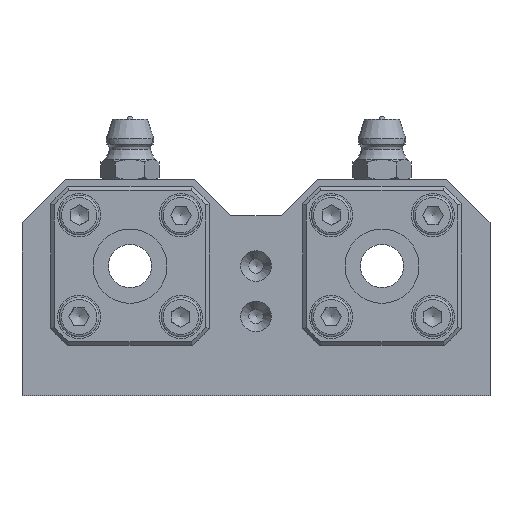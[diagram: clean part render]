
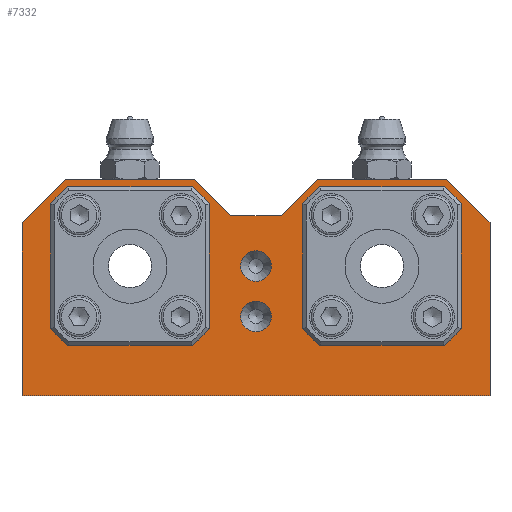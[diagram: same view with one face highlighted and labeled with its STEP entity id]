
A CAD part, left-side view. The second image highlights one B-rep face of the part: STEP entity #7332.
In plain terms, the highlighted planar face has unit normal (-1, 0, 0).
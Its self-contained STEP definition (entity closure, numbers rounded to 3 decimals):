
#6803=CARTESIAN_POINT('',(0.0,-32.5,0.0));
#6804=VERTEX_POINT('',#6803);
#6811=CARTESIAN_POINT('',(0.0,32.5,0.0));
#6812=VERTEX_POINT('',#6811);
#6813=CARTESIAN_POINT('',(0.0,32.5,0.0));
#6814=DIRECTION('',(0.0,-1.0,0.0));
#6815=VECTOR('',#6814,65.0);
#6816=LINE('',#6813,#6815);
#6817=EDGE_CURVE('',#6812,#6804,#6816,.T.);
#6872=CARTESIAN_POINT('',(0.0,-32.5,24.));
#6873=VERTEX_POINT('',#6872);
#6880=CARTESIAN_POINT('',(0.0,-32.5,0.0));
#6881=DIRECTION('',(0.0,0.0,1.0));
#6882=VECTOR('',#6881,24.);
#6883=LINE('',#6880,#6882);
#6884=EDGE_CURVE('',#6804,#6873,#6883,.T.);
#7113=CARTESIAN_POINT('',(0.0,8.5,30.0));
#7114=VERTEX_POINT('',#7113);
#7121=CARTESIAN_POINT('',(0.0,3.5,25.0));
#7122=VERTEX_POINT('',#7121);
#7123=CARTESIAN_POINT('',(0.0,8.5,30.0));
#7124=DIRECTION('',(0.0,-0.707,-0.707));
#7125=VECTOR('',#7124,7.071);
#7126=LINE('',#7123,#7125);
#7127=EDGE_CURVE('',#7114,#7122,#7126,.T.);
#7138=CARTESIAN_POINT('',(0.0,-32.5,0.0));
#7139=DIRECTION('',(-1.0,0.0,0.0));
#7140=DIRECTION('',(0.0,0.0,1.0));
#7141=AXIS2_PLACEMENT_3D('',#7138,#7139,#7140);
#7142=PLANE('',#7141);
#7143=ORIENTED_EDGE('',*,*,#7127,.F.);
#7144=CARTESIAN_POINT('',(0.0,26.5,30.0));
#7145=VERTEX_POINT('',#7144);
#7146=CARTESIAN_POINT('',(0.0,8.5,30.0));
#7147=DIRECTION('',(0.0,1.0,0.0));
#7148=VECTOR('',#7147,18.);
#7149=LINE('',#7146,#7148);
#7150=EDGE_CURVE('',#7114,#7145,#7149,.T.);
#7151=ORIENTED_EDGE('',*,*,#7150,.T.);
#7152=CARTESIAN_POINT('',(0.0,32.5,24.));
#7153=VERTEX_POINT('',#7152);
#7154=CARTESIAN_POINT('',(0.0,32.5,24.));
#7155=DIRECTION('',(0.0,-0.707,0.707));
#7156=VECTOR('',#7155,8.485);
#7157=LINE('',#7154,#7156);
#7158=EDGE_CURVE('',#7153,#7145,#7157,.T.);
#7159=ORIENTED_EDGE('',*,*,#7158,.F.);
#7160=CARTESIAN_POINT('',(0.0,32.5,0.0));
#7161=DIRECTION('',(0.0,0.0,1.0));
#7162=VECTOR('',#7161,24.);
#7163=LINE('',#7160,#7162);
#7164=EDGE_CURVE('',#6812,#7153,#7163,.T.);
#7165=ORIENTED_EDGE('',*,*,#7164,.F.);
#7166=ORIENTED_EDGE('',*,*,#6817,.T.);
#7167=ORIENTED_EDGE('',*,*,#6884,.T.);
#7168=CARTESIAN_POINT('',(0.0,-26.5,30.0));
#7169=VERTEX_POINT('',#7168);
#7170=CARTESIAN_POINT('',(0.0,-26.5,30.0));
#7171=DIRECTION('',(0.0,-0.707,-0.707));
#7172=VECTOR('',#7171,8.485);
#7173=LINE('',#7170,#7172);
#7174=EDGE_CURVE('',#7169,#6873,#7173,.T.);
#7175=ORIENTED_EDGE('',*,*,#7174,.F.);
#7176=CARTESIAN_POINT('',(0.0,-8.5,30.0));
#7177=VERTEX_POINT('',#7176);
#7178=CARTESIAN_POINT('',(0.0,-26.5,30.0));
#7179=DIRECTION('',(0.0,1.0,0.0));
#7180=VECTOR('',#7179,18.);
#7181=LINE('',#7178,#7180);
#7182=EDGE_CURVE('',#7169,#7177,#7181,.T.);
#7183=ORIENTED_EDGE('',*,*,#7182,.T.);
#7184=CARTESIAN_POINT('',(0.0,-3.5,25.0));
#7185=VERTEX_POINT('',#7184);
#7186=CARTESIAN_POINT('',(0.0,-3.5,25.0));
#7187=DIRECTION('',(0.0,-0.707,0.707));
#7188=VECTOR('',#7187,7.071);
#7189=LINE('',#7186,#7188);
#7190=EDGE_CURVE('',#7185,#7177,#7189,.T.);
#7191=ORIENTED_EDGE('',*,*,#7190,.F.);
#7192=CARTESIAN_POINT('',(0.0,-3.5,25.0));
#7193=DIRECTION('',(0.0,1.0,0.0));
#7194=VECTOR('',#7193,7.);
#7195=LINE('',#7192,#7194);
#7196=EDGE_CURVE('',#7185,#7122,#7195,.T.);
#7197=ORIENTED_EDGE('',*,*,#7196,.T.);
#7198=EDGE_LOOP('',(#7143,#7151,#7159,#7165,#7166,#7167,#7175,#7183,#7191,#7197));
#7199=FACE_OUTER_BOUND('',#7198,.T.);
#7200=CARTESIAN_POINT('',(0.0,10.429,23.571));
#7201=VERTEX_POINT('',#7200);
#7202=CARTESIAN_POINT('',(0.0,10.429,25.071));
#7203=DIRECTION('',(1.0,0.0,0.0));
#7204=DIRECTION('',(0.0,0.0,-1.0));
#7205=AXIS2_PLACEMENT_3D('',#7202,#7203,#7204);
#7206=CIRCLE('',#7205,1.5);
#7207=EDGE_CURVE('',#7201,#7201,#7206,.T.);
#7208=ORIENTED_EDGE('',*,*,#7207,.T.);
#7209=EDGE_LOOP('',(#7208));
#7210=FACE_BOUND('',#7209,.T.);
#7211=CARTESIAN_POINT('',(0.0,11.929,10.929));
#7212=VERTEX_POINT('',#7211);
#7213=CARTESIAN_POINT('',(0.0,10.429,10.929));
#7214=DIRECTION('',(1.0,0.0,0.0));
#7215=DIRECTION('',(0.0,1.0,0.0));
#7216=AXIS2_PLACEMENT_3D('',#7213,#7214,#7215);
#7217=CIRCLE('',#7216,1.5);
#7218=EDGE_CURVE('',#7212,#7212,#7217,.T.);
#7219=ORIENTED_EDGE('',*,*,#7218,.T.);
#7220=EDGE_LOOP('',(#7219));
#7221=FACE_BOUND('',#7220,.T.);
#7222=CARTESIAN_POINT('',(0.0,24.571,12.429));
#7223=VERTEX_POINT('',#7222);
#7224=CARTESIAN_POINT('',(0.0,24.571,10.929));
#7225=DIRECTION('',(1.0,0.0,0.0));
#7226=DIRECTION('',(0.0,0.0,1.0));
#7227=AXIS2_PLACEMENT_3D('',#7224,#7225,#7226);
#7228=CIRCLE('',#7227,1.5);
#7229=EDGE_CURVE('',#7223,#7223,#7228,.T.);
#7230=ORIENTED_EDGE('',*,*,#7229,.T.);
#7231=EDGE_LOOP('',(#7230));
#7232=FACE_BOUND('',#7231,.T.);
#7233=CARTESIAN_POINT('',(0.0,11.5,18.0));
#7234=VERTEX_POINT('',#7233);
#7235=CARTESIAN_POINT('',(0.0,17.5,18.0));
#7236=DIRECTION('',(1.0,0.0,0.0));
#7237=DIRECTION('',(0.0,1.0,0.0));
#7238=AXIS2_PLACEMENT_3D('',#7235,#7236,#7237);
#7239=CIRCLE('',#7238,6.);
#7240=EDGE_CURVE('',#7234,#7234,#7239,.T.);
#7241=ORIENTED_EDGE('',*,*,#7240,.T.);
#7242=EDGE_LOOP('',(#7241));
#7243=FACE_BOUND('',#7242,.T.);
#7244=CARTESIAN_POINT('',(0.0,23.071,25.071));
#7245=VERTEX_POINT('',#7244);
#7246=CARTESIAN_POINT('',(0.0,24.571,25.071));
#7247=DIRECTION('',(1.0,0.0,0.0));
#7248=DIRECTION('',(0.0,-1.0,0.0));
#7249=AXIS2_PLACEMENT_3D('',#7246,#7247,#7248);
#7250=CIRCLE('',#7249,1.5);
#7251=EDGE_CURVE('',#7245,#7245,#7250,.T.);
#7252=ORIENTED_EDGE('',*,*,#7251,.T.);
#7253=EDGE_LOOP('',(#7252));
#7254=FACE_BOUND('',#7253,.T.);
#7255=CARTESIAN_POINT('',(0.0,2.125,18.0));
#7256=VERTEX_POINT('',#7255);
#7257=CARTESIAN_POINT('',(0.0,0.0,18.0));
#7258=DIRECTION('',(1.0,0.0,0.0));
#7259=DIRECTION('',(0.0,1.0,0.0));
#7260=AXIS2_PLACEMENT_3D('',#7257,#7258,#7259);
#7261=CIRCLE('',#7260,2.125);
#7262=EDGE_CURVE('',#7256,#7256,#7261,.T.);
#7263=ORIENTED_EDGE('',*,*,#7262,.T.);
#7264=EDGE_LOOP('',(#7263));
#7265=FACE_BOUND('',#7264,.T.);
#7266=CARTESIAN_POINT('',(0.0,2.125,11.));
#7267=VERTEX_POINT('',#7266);
#7268=CARTESIAN_POINT('',(0.0,0.,11.));
#7269=DIRECTION('',(1.0,0.0,0.0));
#7270=DIRECTION('',(0.0,1.0,0.0));
#7271=AXIS2_PLACEMENT_3D('',#7268,#7269,#7270);
#7272=CIRCLE('',#7271,2.125);
#7273=EDGE_CURVE('',#7267,#7267,#7272,.T.);
#7274=ORIENTED_EDGE('',*,*,#7273,.T.);
#7275=EDGE_LOOP('',(#7274));
#7276=FACE_BOUND('',#7275,.T.);
#7277=CARTESIAN_POINT('',(0.0,-10.429,23.571));
#7278=VERTEX_POINT('',#7277);
#7279=CARTESIAN_POINT('',(0.0,-10.429,25.071));
#7280=DIRECTION('',(1.0,0.0,0.0));
#7281=DIRECTION('',(0.0,0.0,-1.0));
#7282=AXIS2_PLACEMENT_3D('',#7279,#7280,#7281);
#7283=CIRCLE('',#7282,1.5);
#7284=EDGE_CURVE('',#7278,#7278,#7283,.T.);
#7285=ORIENTED_EDGE('',*,*,#7284,.T.);
#7286=EDGE_LOOP('',(#7285));
#7287=FACE_BOUND('',#7286,.T.);
#7288=CARTESIAN_POINT('',(0.0,-11.929,10.929));
#7289=VERTEX_POINT('',#7288);
#7290=CARTESIAN_POINT('',(0.0,-10.429,10.929));
#7291=DIRECTION('',(1.0,0.0,0.0));
#7292=DIRECTION('',(0.0,-1.0,0.0));
#7293=AXIS2_PLACEMENT_3D('',#7290,#7291,#7292);
#7294=CIRCLE('',#7293,1.5);
#7295=EDGE_CURVE('',#7289,#7289,#7294,.T.);
#7296=ORIENTED_EDGE('',*,*,#7295,.T.);
#7297=EDGE_LOOP('',(#7296));
#7298=FACE_BOUND('',#7297,.T.);
#7299=CARTESIAN_POINT('',(0.0,-24.571,12.429));
#7300=VERTEX_POINT('',#7299);
#7301=CARTESIAN_POINT('',(0.0,-24.571,10.929));
#7302=DIRECTION('',(1.0,0.0,0.0));
#7303=DIRECTION('',(0.0,0.0,1.0));
#7304=AXIS2_PLACEMENT_3D('',#7301,#7302,#7303);
#7305=CIRCLE('',#7304,1.5);
#7306=EDGE_CURVE('',#7300,#7300,#7305,.T.);
#7307=ORIENTED_EDGE('',*,*,#7306,.T.);
#7308=EDGE_LOOP('',(#7307));
#7309=FACE_BOUND('',#7308,.T.);
#7310=CARTESIAN_POINT('',(0.0,-23.071,25.071));
#7311=VERTEX_POINT('',#7310);
#7312=CARTESIAN_POINT('',(0.0,-24.571,25.071));
#7313=DIRECTION('',(1.0,0.0,0.0));
#7314=DIRECTION('',(0.0,1.0,0.0));
#7315=AXIS2_PLACEMENT_3D('',#7312,#7313,#7314);
#7316=CIRCLE('',#7315,1.5);
#7317=EDGE_CURVE('',#7311,#7311,#7316,.T.);
#7318=ORIENTED_EDGE('',*,*,#7317,.T.);
#7319=EDGE_LOOP('',(#7318));
#7320=FACE_BOUND('',#7319,.T.);
#7321=CARTESIAN_POINT('',(0.0,-11.5,18.0));
#7322=VERTEX_POINT('',#7321);
#7323=CARTESIAN_POINT('',(0.0,-17.5,18.0));
#7324=DIRECTION('',(1.0,0.0,0.0));
#7325=DIRECTION('',(0.0,-1.0,0.0));
#7326=AXIS2_PLACEMENT_3D('',#7323,#7324,#7325);
#7327=CIRCLE('',#7326,6.);
#7328=EDGE_CURVE('',#7322,#7322,#7327,.T.);
#7329=ORIENTED_EDGE('',*,*,#7328,.T.);
#7330=EDGE_LOOP('',(#7329));
#7331=FACE_BOUND('',#7330,.T.);
#7332=ADVANCED_FACE('',(#7199,#7210,#7221,#7232,#7243,#7254,#7265,#7276,#7287,#7298,#7309,#7320,#7331),#7142,.T.);
